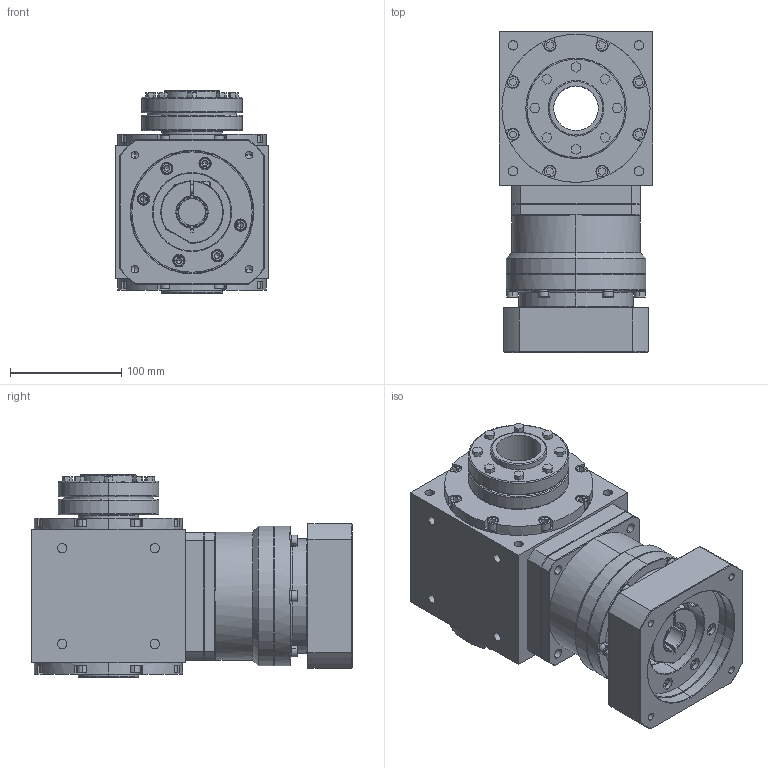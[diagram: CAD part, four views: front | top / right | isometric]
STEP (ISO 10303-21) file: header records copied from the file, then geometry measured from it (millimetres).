
FILE_DESCRIPTION (( 'STEP AP203' ), '1' );
FILE_NAME ('AAW135AS-L1-RFHP 24-110-145-M8.STEP', '2024-12-14T08:18:57', ( '' ), ( '' ), 'SwSTEP 2.0', 'SolidWorks 2021', '' );
FILE_SCHEMA (( 'CONFIG_CONTROL_DESIGN' ));
Length unit declared in the file: millimetre
Products named in the file (3): AAW135AS-L1-RFHP 24-110-145-M8; AAW135AS-RFHP; VRB-115-L1-S2-P1 24-110-145-M8
Assembly tree (2 placements, depth 2):
  AAW135AS-L1-RFHP 24-110-145-M8
    AAW135AS-RFHP
    VRB-115-L1-S2-P1 24-110-145-M8
Bounding box: 138 x 288 x 182 mm (x, y, z)
Volume: 4262835.9 mm3; surface area: 385418.7 mm2
Topology: 33 solids, 33 shells, 1368 faces, 3316 edges, 2096 vertices
Faces by surface type: plane 684, cylinder 458, cone 176, torus 36, bspline 14
Entity records: 41798 total; most frequent: CARTESIAN_POINT 9001, DIRECTION 7120, ORIENTED_EDGE 6512, EDGE_CURVE 3256, AXIS2_PLACEMENT_3D 2684, VERTEX_POINT 2094, LINE 1752, VECTOR 1752
